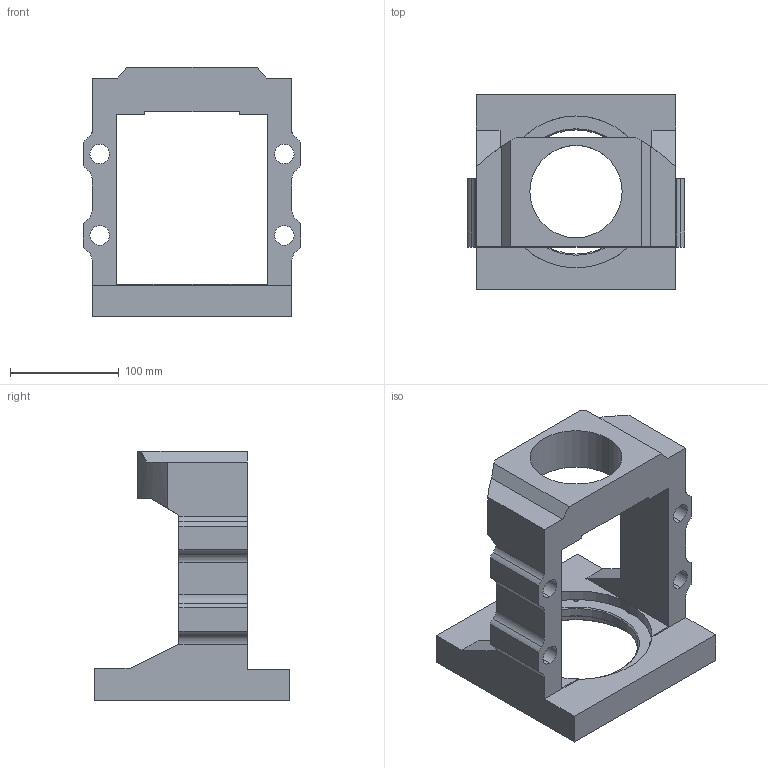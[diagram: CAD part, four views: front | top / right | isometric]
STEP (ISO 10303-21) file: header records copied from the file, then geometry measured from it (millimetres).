
FILE_DESCRIPTION (( 'STEP AP203' ), '1' );
FILE_NAME ('MBB30-I.STEP', '2021-10-01T06:10:25', ( '' ), ( '' ), 'SwSTEP 2.0', 'SolidWorks 2018', '' );
FILE_SCHEMA (( 'CONFIG_CONTROL_DESIGN' ));
Length unit declared in the file: millimetre
Products named in the file (1): MBB30-I
Bounding box: 200 x 180 x 230 mm (x, y, z)
Surface area: 219364.2 mm2 (no closed solid volume)
Topology: 0 solids, 6 shells, 198 faces, 570 edges, 376 vertices
Faces by surface type: cylinder 92, plane 68, cone 34, bspline 2, torus 2
Entity records: 8909 total; most frequent: CARTESIAN_POINT 3559, DIRECTION 1158, ORIENTED_EDGE 1015, EDGE_CURVE 566, AXIS2_PLACEMENT_3D 431, VERTEX_POINT 376, VECTOR 296, LINE 296
